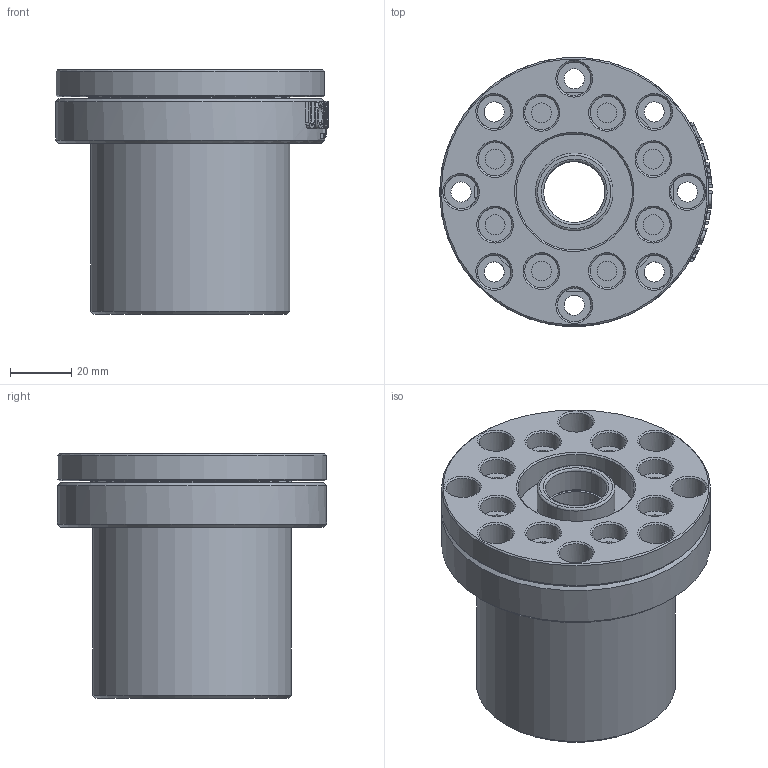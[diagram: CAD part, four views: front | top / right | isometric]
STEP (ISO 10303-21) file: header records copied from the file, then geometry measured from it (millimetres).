
FILE_DESCRIPTION(/* description */ (''),/* implementation_level */ '2;1');
FILE_NAME(/* name */ 'MBK20DFF.stp',/* time_stamp */ '2016-10-26T18:48:06+08:00',/* author */ (''),/* organization */ (''),/* preprocessor_version */ 'ST-DEVELOPER v15',/* originating_system */ 'SIEMENS PLM Software NX 8.5',/* authorisation */ '');
FILE_SCHEMA (('CONFIG_CONTROL_DESIGN'));
Length unit declared in the file: millimetre
Products named in the file (1): MBK20DFF
Bounding box: 89.17 x 88 x 80 mm (x, y, z)
Volume: 279846.8 mm3; surface area: 47612.1 mm2
Topology: 1 solids, 2 shells, 280 faces, 734 edges, 469 vertices
Faces by surface type: plane 105, cylinder 64, cone 60, extrusion 41, bspline 10
Full cylindrical faces by diameter (mm): 6.5 x8, 6.6 x8, 11 x16, 20 x3, 25.4 x3, 38 x1, 65 x1, 88 x2
Entity records: 9388 total; most frequent: CARTESIAN_POINT 3253, ORIENTED_EDGE 1218, DIRECTION 1162, EDGE_CURVE 609, AXIS2_PLACEMENT_3D 496, VERTEX_POINT 414, EDGE_LOOP 397, ADVANCED_FACE 280
